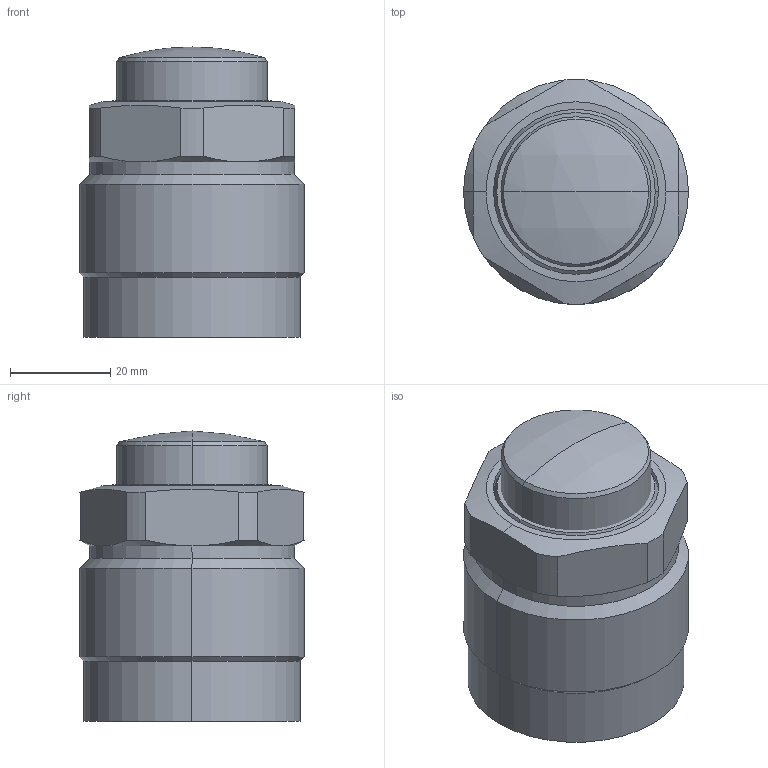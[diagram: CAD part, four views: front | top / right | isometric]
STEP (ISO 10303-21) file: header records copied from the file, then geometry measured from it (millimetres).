
FILE_DESCRIPTION (( 'STEP AP203' ), '1' );
FILE_NAME ('650451-RS.step', '2016-11-02T03:14:50', ( 'wxp' ), ( '' ), 'SwSTEP 2.0', 'SolidWorks 2011', '' );
FILE_SCHEMA (( 'CONFIG_CONTROL_DESIGN' ));
Length unit declared in the file: millimetre
Products named in the file (3): 650451-RS; 葩璃 650451-RS.sldasm-Part-2^650451-RS; 葩璃 650451-RS.sldasm-Part-1^650451-RS
Assembly tree (2 placements, depth 2):
  650451-RS
    葩璃 650451-RS.sldasm-Part-2^650451-RS
    葩璃 650451-RS.sldasm-Part-1^650451-RS
Bounding box: 45 x 45 x 58 mm (x, y, z)
Volume: 77815.6 mm3; surface area: 13204.3 mm2
Topology: 2 solids, 2 shells, 63 faces, 138 edges, 84 vertices
Faces by surface type: cylinder 26, plane 15, cone 14, torus 6, sphere 2
Entity records: 2113 total; most frequent: CARTESIAN_POINT 404, DIRECTION 330, ORIENTED_EDGE 272, AXIS2_PLACEMENT_3D 142, EDGE_CURVE 136, VERTEX_POINT 84, CIRCLE 74, EDGE_LOOP 70
